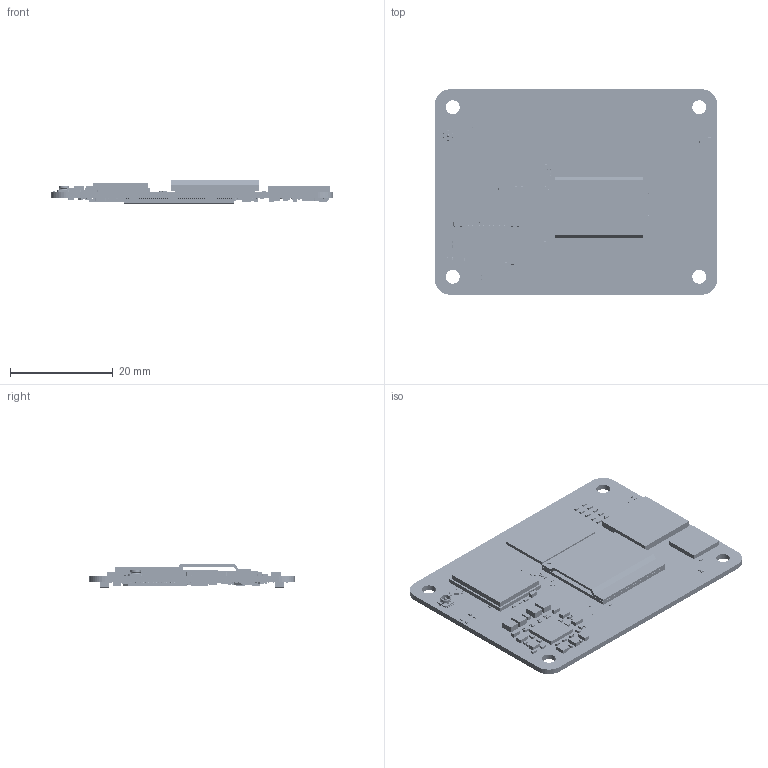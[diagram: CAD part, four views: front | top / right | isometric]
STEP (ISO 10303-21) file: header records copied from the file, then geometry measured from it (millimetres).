
FILE_DESCRIPTION(('STEP AP214'),'1');
FILE_NAME('CM5R5-3dsteps.step','2024-12-17T20:46:56',(' '),(' '),'Spatial InterOp 3D',' ',' ');
FILE_SCHEMA(('AUTOMOTIVE_DESIGN { 1 0 10303 214 1 1 1 1 }'));
Length unit declared in the file: millimetre
Products named in the file (487): U3; 200-ball_VFBGAold.step; ComponentsTop; C44; CAP0201.step; C43; C42; C41; C51; C53; C48; C50; C60; C61; C59; C58; C37; C38; C45; C46; C55; C56; C113; C127; C226; C242; C243; C305; C324; C325; C39; C4; C40; C47; C49; C5; C329; R39; RES0201old.step; R36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
Assembly tree (878 placements, depth 7):
  CM5r5
    Components
      ComponentsTop
        U3
          200-ball_VFBGAold.step
        C44
          CAP0201.step
        C43
          CAP0201.step
        C42
          CAP0201.step
        C41
          CAP0201.step
        C51
          CAP0201.step
        C53
          CAP0201.step
        C48
          CAP0201.step
        C50
          CAP0201.step
        C60
          CAP0201.step
        C61
          CAP0201.step
        C59
          CAP0201.step
        C58
          CAP0201.step
        C37
          CAP0201.step
        C38
          CAP0201.step
        C45
          CAP0201.step
        C46
          CAP0201.step
        C55
          CAP0201.step
        C56
          CAP0201.step
        C113
          CAP0201.step
        C127
          CAP0201.step
        C226
          CAP0201.step
        C242
          CAP0201.step
        C243
          CAP0201.step
        C305
          CAP0201.step
        C324
          CAP0201.step
        C325
          CAP0201.step
        C39
          CAP0201.step
        C4
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Bounding box: 55 x 40 x 4.62 mm (x, y, z)
Volume: 3599.4 mm3; surface area: 9882.7 mm2
Topology: 1076 solids, 1077 shells, 29365 faces, 74711 edges, 51460 vertices
Faces by surface type: plane 14762, cylinder 7779, sphere 4230, bspline 2548, torus 32, cone 14
Entity records: 241457 total; most frequent: CARTESIAN_POINT 56290, DIRECTION 30876, ORIENTED_EDGE 24872, EDGE_CURVE 12437, AXIS2_PLACEMENT_3D 12162, VERTEX_POINT 8500, LINE 6552, VECTOR 6552
